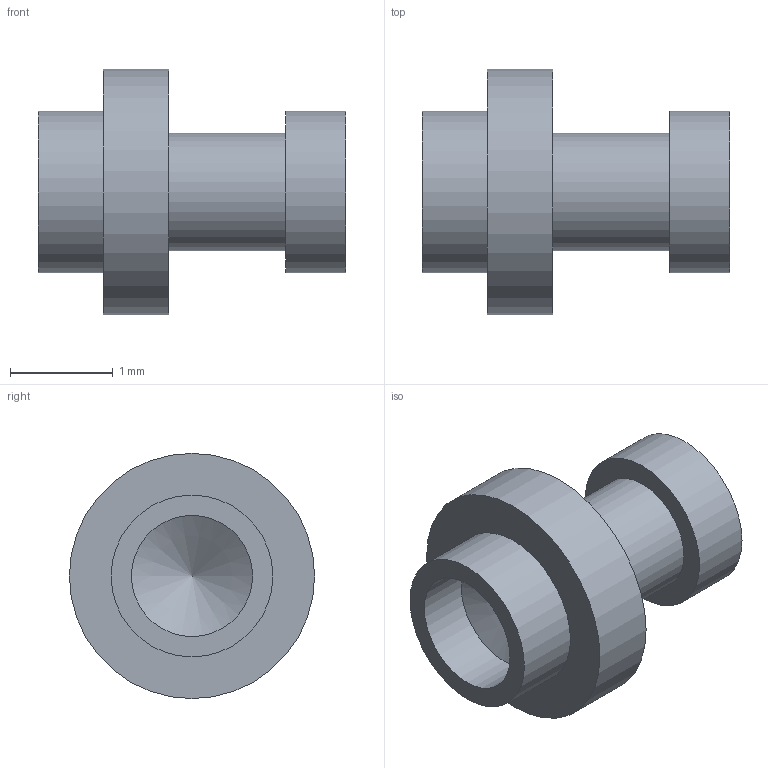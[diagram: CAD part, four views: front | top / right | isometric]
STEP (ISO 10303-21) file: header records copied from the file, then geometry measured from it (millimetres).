
FILE_DESCRIPTION(/* description */ (''),/* implementation_level */ '2;1');
FILE_NAME(/* name */ 'Z:\STEP folder\160-1604-11.ipt.stp',/* time_stamp */ '2016-12-07T10:48:33+00:00',/* author */ ('Paul Karlsons'),/* organization */ (''),/* preprocessor_version */ 'ST-DEVELOPER v15.2',/* originating_system */ 'Autodesk Inventor 2014',/* authorisation */ '');
FILE_SCHEMA (('AUTOMOTIVE_DESIGN { 1 0 10303 214 3 1 1 }'));
Length unit declared in the file: millimetre
Products named in the file (1): 160-1604-11
Bounding box: 3 x 2.39 x 2.39 mm (x, y, z)
Volume: 5.7 mm3; surface area: 27.8 mm2
Topology: 1 solids, 1 shells, 11 faces, 17 edges, 11 vertices
Faces by surface type: cylinder 5, plane 5, cone 1
Full cylindrical faces by diameter (mm): 1.143 x1, 1.18 x1, 1.575 x2, 2.388 x1
Entity records: 235 total; most frequent: DIRECTION 44, CARTESIAN_POINT 32, AXIS2_PLACEMENT_3D 22, EDGE_LOOP 20, ORIENTED_EDGE 20, FACE_BOUND 11, ADVANCED_FACE 11, CIRCLE 10
